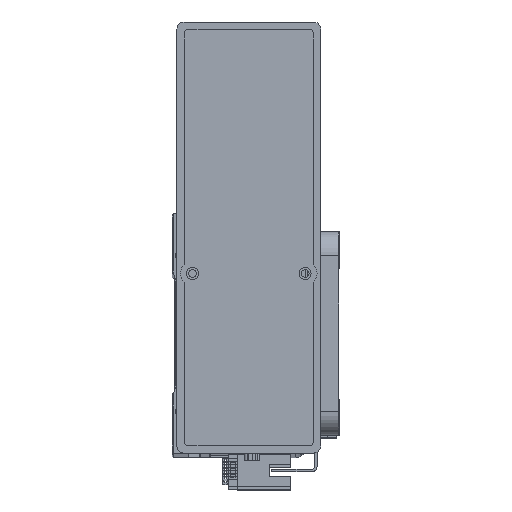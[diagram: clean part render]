
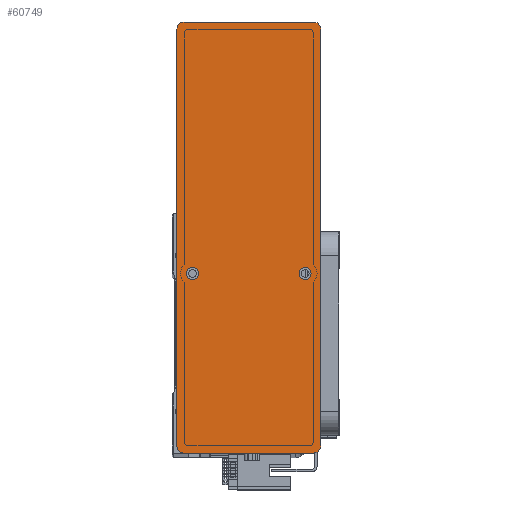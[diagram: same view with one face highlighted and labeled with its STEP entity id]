
A CAD part, top view. The second image highlights one B-rep face of the part: STEP entity #60749.
In plain terms, the highlighted planar face has unit normal (0, 0, 1) as drawn and (0, 0, -1) by its records, which use the part's own axes.
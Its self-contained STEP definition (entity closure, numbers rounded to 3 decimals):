
#110 = PLANE ( 'NONE',  #1601 ) ;
#1069 = FACE_BOUND ( 'NONE', #7935, .T. ) ;
#1601 = AXIS2_PLACEMENT_3D ( 'NONE', #62330, #4910, #38597 ) ;
#2064 = DIRECTION ( 'NONE',  ( -1., 0., 0. ) ) ;
#2102 = DIRECTION ( 'NONE',  ( -1., 0., 0. ) ) ;
#2733 = CARTESIAN_POINT ( 'NONE',  ( 90., -30., 0. ) ) ;
#3440 = CARTESIAN_POINT ( 'NONE',  ( -87., 30., 0. ) ) ;
#3494 = DIRECTION ( 'NONE',  ( 0., 0., -1. ) ) ;
#3853 = AXIS2_PLACEMENT_3D ( 'NONE', #59710, #30907, #2064 ) ;
#4278 = VERTEX_POINT ( 'NONE', #32579 ) ;
#4548 = VERTEX_POINT ( 'NONE', #26235 ) ;
#4602 = EDGE_CURVE ( 'NONE', #23296, #26210, #47533, .T. ) ;
#4617 = CIRCLE ( 'NONE', #57548, 3. ) ;
#4910 = DIRECTION ( 'NONE',  ( 0., 0., 1. ) ) ;
#5644 = VERTEX_POINT ( 'NONE', #33204 ) ;
#6030 = CARTESIAN_POINT ( 'NONE',  ( -15., -23.5, 0. ) ) ;
#7355 = CARTESIAN_POINT ( 'NONE',  ( 87., 30., 0. ) ) ;
#7559 = DIRECTION ( 'NONE',  ( 0., 1., 0. ) ) ;
#7935 = EDGE_LOOP ( 'NONE', ( #30353, #22913 ) ) ;
#8224 = ORIENTED_EDGE ( 'NONE', *, *, #29454, .F. ) ;
#8598 = CARTESIAN_POINT ( 'NONE',  ( -87., -30., 0. ) ) ;
#8877 = EDGE_CURVE ( 'NONE', #29577, #4278, #39141, .T. ) ;
#10545 = ORIENTED_EDGE ( 'NONE', *, *, #40446, .F. ) ;
#10823 = VERTEX_POINT ( 'NONE', #33711 ) ;
#10856 = FACE_OUTER_BOUND ( 'NONE', #60663, .T. ) ;
#10875 = DIRECTION ( 'NONE',  ( -1., 0., 0. ) ) ;
#11990 = CARTESIAN_POINT ( 'NONE',  ( 87., -30., 0. ) ) ;
#13106 = ORIENTED_EDGE ( 'NONE', *, *, #47482, .F. ) ;
#13309 = EDGE_LOOP ( 'NONE', ( #32022, #30151 ) ) ;
#13463 = ORIENTED_EDGE ( 'NONE', *, *, #48388, .T. ) ;
#14918 = DIRECTION ( 'NONE',  ( 0., 0., -1. ) ) ;
#15649 = AXIS2_PLACEMENT_3D ( 'NONE', #43757, #14918, #48555 ) ;
#17023 = DIRECTION ( 'NONE',  ( 0., 0., -1. ) ) ;
#17151 = LINE ( 'NONE', #41108, #53984 ) ;
#17201 = CIRCLE ( 'NONE', #51977, 2.5 ) ;
#17287 = EDGE_CURVE ( 'NONE', #26221, #27090, #35833, .T. ) ;
#17689 = AXIS2_PLACEMENT_3D ( 'NONE', #57322, #28489, #62087 ) ;
#18038 = CARTESIAN_POINT ( 'NONE',  ( 90., -27., 0. ) ) ;
#21011 = DIRECTION ( 'NONE',  ( -1., 0., 0. ) ) ;
#21131 = ORIENTED_EDGE ( 'NONE', *, *, #17287, .T. ) ;
#22913 = ORIENTED_EDGE ( 'NONE', *, *, #26131, .F. ) ;
#23296 = VERTEX_POINT ( 'NONE', #18038 ) ;
#23755 = AXIS2_PLACEMENT_3D ( 'NONE', #55566, #26752, #60378 ) ;
#24735 = LINE ( 'NONE', #59644, #61598 ) ;
#26131 = EDGE_CURVE ( 'NONE', #41973, #4548, #17201, .T. ) ;
#26210 = VERTEX_POINT ( 'NONE', #11990 ) ;
#26221 = VERTEX_POINT ( 'NONE', #7355 ) ;
#26235 = CARTESIAN_POINT ( 'NONE',  ( -17.5, 23.5, 0. ) ) ;
#26752 = DIRECTION ( 'NONE',  ( 0., 0., -1. ) ) ;
#27090 = VERTEX_POINT ( 'NONE', #42783 ) ;
#28113 = AXIS2_PLACEMENT_3D ( 'NONE', #32335, #3494, #37168 ) ;
#28489 = DIRECTION ( 'NONE',  ( 0., 0., -1. ) ) ;
#29454 = EDGE_CURVE ( 'NONE', #56653, #26210, #17151, .T. ) ;
#29577 = VERTEX_POINT ( 'NONE', #61800 ) ;
#29890 = EDGE_CURVE ( 'NONE', #4278, #29577, #33522, .T. ) ;
#30151 = ORIENTED_EDGE ( 'NONE', *, *, #8877, .F. ) ;
#30353 = ORIENTED_EDGE ( 'NONE', *, *, #43073, .F. ) ;
#30428 = VECTOR ( 'NONE', #7559, 1000. ) ;
#30846 = DIRECTION ( 'NONE',  ( 0., -1., 0. ) ) ;
#30907 = DIRECTION ( 'NONE',  ( 0., 0., -1. ) ) ;
#30952 = DIRECTION ( 'NONE',  ( 0., 0., -1. ) ) ;
#31419 = DIRECTION ( 'NONE',  ( 1., 0., 0. ) ) ;
#31677 = VECTOR ( 'NONE', #21011, 1000. ) ;
#32022 = ORIENTED_EDGE ( 'NONE', *, *, #29890, .F. ) ;
#32335 = CARTESIAN_POINT ( 'NONE',  ( 87., -27., 0. ) ) ;
#32579 = CARTESIAN_POINT ( 'NONE',  ( -17.5, -23.5, 0. ) ) ;
#33204 = CARTESIAN_POINT ( 'NONE',  ( -90., 27., 0. ) ) ;
#33522 = CIRCLE ( 'NONE', #3853, 2.5 ) ;
#33711 = CARTESIAN_POINT ( 'NONE',  ( -90., -27., 0. ) ) ;
#35294 = CARTESIAN_POINT ( 'NONE',  ( 90., 30., 0. ) ) ;
#35833 = CIRCLE ( 'NONE', #23755, 3. ) ;
#37168 = DIRECTION ( 'NONE',  ( 1., 0., 0. ) ) ;
#37811 = EDGE_CURVE ( 'NONE', #56653, #10823, #4617, .T. ) ;
#37959 = FACE_BOUND ( 'NONE', #13309, .T. ) ;
#38392 = ORIENTED_EDGE ( 'NONE', *, *, #42716, .F. ) ;
#38597 = DIRECTION ( 'NONE',  ( 1., 0., 0. ) ) ;
#39141 = CIRCLE ( 'NONE', #43317, 2.5 ) ;
#39352 = CARTESIAN_POINT ( 'NONE',  ( -12.5, 23.5, 0. ) ) ;
#39706 = DIRECTION ( 'NONE',  ( 0., 0., -1. ) ) ;
#40446 = EDGE_CURVE ( 'NONE', #23296, #27090, #44746, .T. ) ;
#41108 = CARTESIAN_POINT ( 'NONE',  ( 90., -30., 0. ) ) ;
#41973 = VERTEX_POINT ( 'NONE', #39352 ) ;
#42716 = EDGE_CURVE ( 'NONE', #26221, #52332, #44475, .T. ) ;
#42783 = CARTESIAN_POINT ( 'NONE',  ( 90., 27., 0. ) ) ;
#43073 = EDGE_CURVE ( 'NONE', #4548, #41973, #60886, .T. ) ;
#43317 = AXIS2_PLACEMENT_3D ( 'NONE', #6030, #39706, #10875 ) ;
#43757 = CARTESIAN_POINT ( 'NONE',  ( -87., 27., 0. ) ) ;
#44475 = LINE ( 'NONE', #35294, #31677 ) ;
#44746 = LINE ( 'NONE', #2733, #30428 ) ;
#45805 = CARTESIAN_POINT ( 'NONE',  ( -87., -27., 0. ) ) ;
#46870 = ORIENTED_EDGE ( 'NONE', *, *, #37811, .T. ) ;
#47482 = EDGE_CURVE ( 'NONE', #5644, #10823, #24735, .T. ) ;
#47533 = CIRCLE ( 'NONE', #28113, 3. ) ;
#48388 = EDGE_CURVE ( 'NONE', #5644, #52332, #50846, .T. ) ;
#48555 = DIRECTION ( 'NONE',  ( 1., 0., 0. ) ) ;
#50620 = DIRECTION ( 'NONE',  ( 1., 0., 0. ) ) ;
#50846 = CIRCLE ( 'NONE', #15649, 3. ) ;
#51977 = AXIS2_PLACEMENT_3D ( 'NONE', #59759, #30952, #2102 ) ;
#52332 = VERTEX_POINT ( 'NONE', #3440 ) ;
#53984 = VECTOR ( 'NONE', #31419, 1000. ) ;
#55566 = CARTESIAN_POINT ( 'NONE',  ( 87., 27., 0. ) ) ;
#56653 = VERTEX_POINT ( 'NONE', #8598 ) ;
#57322 = CARTESIAN_POINT ( 'NONE',  ( -15., 23.5, 0. ) ) ;
#57548 = AXIS2_PLACEMENT_3D ( 'NONE', #45805, #17023, #50620 ) ;
#58900 = ORIENTED_EDGE ( 'NONE', *, *, #4602, .T. ) ;
#59644 = CARTESIAN_POINT ( 'NONE',  ( -90., -30., 0. ) ) ;
#59710 = CARTESIAN_POINT ( 'NONE',  ( -15., -23.5, 0. ) ) ;
#59759 = CARTESIAN_POINT ( 'NONE',  ( -15., 23.5, 0. ) ) ;
#60378 = DIRECTION ( 'NONE',  ( 1., 0., 0. ) ) ;
#60663 = EDGE_LOOP ( 'NONE', ( #10545, #58900, #8224, #46870, #13106, #13463, #38392, #21131 ) ) ;
#60749 = ADVANCED_FACE ( 'NONE', ( #1069, #37959, #10856 ), #110, .F. ) ;
#60886 = CIRCLE ( 'NONE', #17689, 2.5 ) ;
#61598 = VECTOR ( 'NONE', #30846, 1000. ) ;
#61800 = CARTESIAN_POINT ( 'NONE',  ( -12.5, -23.5, 0. ) ) ;
#62087 = DIRECTION ( 'NONE',  ( -1., 0., 0. ) ) ;
#62330 = CARTESIAN_POINT ( 'NONE',  ( 0., 0., 0. ) ) ;
